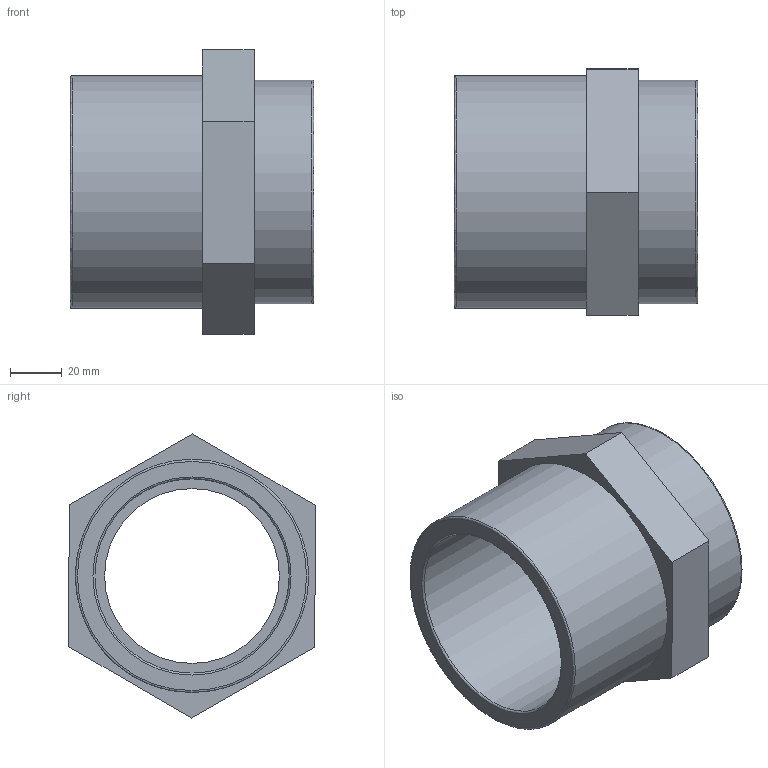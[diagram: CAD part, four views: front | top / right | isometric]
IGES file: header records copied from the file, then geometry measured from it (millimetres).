
Global section: file name: 050202090025.ipt; native system: Autodesk Inventor 2015; preprocessor: unknown; author: KIM; date: 20171207.164356; units: millimetre
Bounding box: 94 x 95.15 x 109.7 mm (x, y, z)
Volume: 213914.6 mm3; surface area: 57140.4 mm2
Topology: 1 solids, 1 shells, 21 faces, 55 edges, 40 vertices
Faces by surface type: plane 12, revolution 7, cylinder 2
Full cylindrical faces by diameter (mm): 86.25 x1, 90 x1
